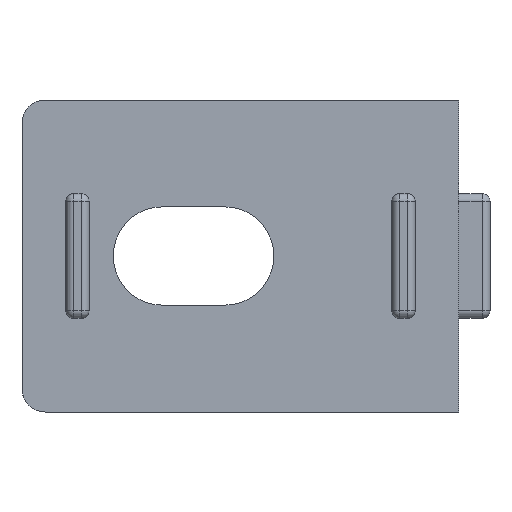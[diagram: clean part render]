
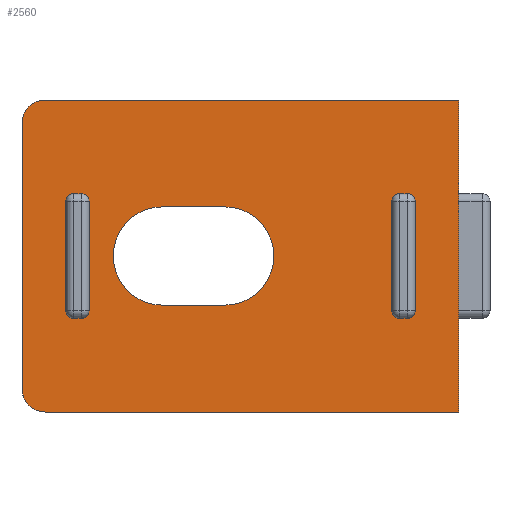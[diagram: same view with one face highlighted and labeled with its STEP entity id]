
A CAD part, left-side view. The second image highlights one B-rep face of the part: STEP entity #2560.
In plain terms, the highlighted planar face has unit normal (-1, 0, 0).
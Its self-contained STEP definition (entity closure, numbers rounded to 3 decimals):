
#1015=CARTESIAN_POINT('',(0.0,3.8,-6.));
#1016=VERTEX_POINT('',#1015);
#1017=CARTESIAN_POINT('',(0.0,4.3,-6.5));
#1018=VERTEX_POINT('',#1017);
#1019=CARTESIAN_POINT('',(0.0,3.8,-6.5));
#1020=DIRECTION('',(1.,0.0,0.0));
#1021=DIRECTION('',(0.0,0.707,0.707));
#1022=AXIS2_PLACEMENT_3D('',#1019,#1020,#1021);
#1023=CIRCLE('',#1022,0.5);
#1024=EDGE_CURVE('',#1016,#1018,#1023,.F.);
#1069=CARTESIAN_POINT('',(0.0,2.8,-6.5));
#1070=VERTEX_POINT('',#1069);
#1071=CARTESIAN_POINT('',(0.0,3.3,-6.0));
#1072=VERTEX_POINT('',#1071);
#1073=CARTESIAN_POINT('',(0.0,3.3,-6.5));
#1074=DIRECTION('',(1.,0.0,0.0));
#1075=DIRECTION('',(0.0,-0.707,0.707));
#1076=AXIS2_PLACEMENT_3D('',#1073,#1074,#1075);
#1077=CIRCLE('',#1076,0.5);
#1078=EDGE_CURVE('',#1070,#1072,#1077,.F.);
#1123=CARTESIAN_POINT('',(0.0,4.3,-13.5));
#1124=VERTEX_POINT('',#1123);
#1125=CARTESIAN_POINT('',(0.0,3.8,-14.0));
#1126=VERTEX_POINT('',#1125);
#1127=CARTESIAN_POINT('',(0.0,3.8,-13.5));
#1128=DIRECTION('',(1.0,0.0,0.0));
#1129=DIRECTION('',(0.0,0.707,-0.707));
#1130=AXIS2_PLACEMENT_3D('',#1127,#1128,#1129);
#1131=CIRCLE('',#1130,0.5);
#1132=EDGE_CURVE('',#1124,#1126,#1131,.F.);
#1177=CARTESIAN_POINT('',(0.0,3.3,-14.0));
#1178=VERTEX_POINT('',#1177);
#1179=CARTESIAN_POINT('',(0.0,2.8,-13.5));
#1180=VERTEX_POINT('',#1179);
#1181=CARTESIAN_POINT('',(0.0,3.3,-13.5));
#1182=DIRECTION('',(1.0,0.0,0.0));
#1183=DIRECTION('',(0.0,-0.707,-0.707));
#1184=AXIS2_PLACEMENT_3D('',#1181,#1182,#1183);
#1185=CIRCLE('',#1184,0.5);
#1186=EDGE_CURVE('',#1178,#1180,#1185,.F.);
#1212=CARTESIAN_POINT('',(0.0,4.3,-13.5));
#1213=DIRECTION('',(0.0,0.0,1.0));
#1214=VECTOR('',#1213,7.);
#1215=LINE('',#1212,#1214);
#1216=EDGE_CURVE('',#1124,#1018,#1215,.T.);
#1229=CARTESIAN_POINT('',(0.0,3.8,-6.));
#1230=DIRECTION('',(0.0,-1.0,0.0));
#1231=VECTOR('',#1230,0.5);
#1232=LINE('',#1229,#1231);
#1233=EDGE_CURVE('',#1016,#1072,#1232,.T.);
#1417=CARTESIAN_POINT('',(0.0,25.2,-13.5));
#1418=VERTEX_POINT('',#1417);
#1419=CARTESIAN_POINT('',(0.0,24.7,-14.0));
#1420=VERTEX_POINT('',#1419);
#1421=CARTESIAN_POINT('',(0.0,24.7,-13.5));
#1422=DIRECTION('',(1.0,0.0,0.0));
#1423=DIRECTION('',(0.0,0.707,-0.707));
#1424=AXIS2_PLACEMENT_3D('',#1421,#1422,#1423);
#1425=CIRCLE('',#1424,0.5);
#1426=EDGE_CURVE('',#1418,#1420,#1425,.F.);
#1471=CARTESIAN_POINT('',(0.0,24.7,-6.0));
#1472=VERTEX_POINT('',#1471);
#1473=CARTESIAN_POINT('',(0.0,25.2,-6.5));
#1474=VERTEX_POINT('',#1473);
#1475=CARTESIAN_POINT('',(0.0,24.7,-6.5));
#1476=DIRECTION('',(1.,0.0,0.0));
#1477=DIRECTION('',(0.0,0.707,0.707));
#1478=AXIS2_PLACEMENT_3D('',#1475,#1476,#1477);
#1479=CIRCLE('',#1478,0.5);
#1480=EDGE_CURVE('',#1472,#1474,#1479,.F.);
#1525=CARTESIAN_POINT('',(0.0,24.2,-14.0));
#1526=VERTEX_POINT('',#1525);
#1527=CARTESIAN_POINT('',(0.0,23.7,-13.5));
#1528=VERTEX_POINT('',#1527);
#1529=CARTESIAN_POINT('',(0.0,24.2,-13.5));
#1530=DIRECTION('',(1.0,0.0,0.0));
#1531=DIRECTION('',(0.0,-0.707,-0.707));
#1532=AXIS2_PLACEMENT_3D('',#1529,#1530,#1531);
#1533=CIRCLE('',#1532,0.5);
#1534=EDGE_CURVE('',#1526,#1528,#1533,.F.);
#1579=CARTESIAN_POINT('',(0.0,23.7,-6.5));
#1580=VERTEX_POINT('',#1579);
#1581=CARTESIAN_POINT('',(0.0,24.2,-6.0));
#1582=VERTEX_POINT('',#1581);
#1583=CARTESIAN_POINT('',(0.0,24.2,-6.5));
#1584=DIRECTION('',(1.0,0.0,0.0));
#1585=DIRECTION('',(0.0,-0.707,0.707));
#1586=AXIS2_PLACEMENT_3D('',#1583,#1584,#1585);
#1587=CIRCLE('',#1586,0.5);
#1588=EDGE_CURVE('',#1580,#1582,#1587,.F.);
#1614=CARTESIAN_POINT('',(0.0,24.2,-14.0));
#1615=DIRECTION('',(0.0,1.0,0.0));
#1616=VECTOR('',#1615,0.5);
#1617=LINE('',#1614,#1616);
#1618=EDGE_CURVE('',#1526,#1420,#1617,.T.);
#1631=CARTESIAN_POINT('',(0.0,25.2,-13.5));
#1632=DIRECTION('',(0.0,0.0,1.0));
#1633=VECTOR('',#1632,7.);
#1634=LINE('',#1631,#1633);
#1635=EDGE_CURVE('',#1418,#1474,#1634,.T.);
#1658=CARTESIAN_POINT('',(0.0,2.8,-6.5));
#1659=DIRECTION('',(0.0,0.0,-1.0));
#1660=VECTOR('',#1659,7.);
#1661=LINE('',#1658,#1660);
#1662=EDGE_CURVE('',#1070,#1180,#1661,.T.);
#1675=CARTESIAN_POINT('',(0.0,3.3,-14.0));
#1676=DIRECTION('',(0.0,1.0,0.0));
#1677=VECTOR('',#1676,0.5);
#1678=LINE('',#1675,#1677);
#1679=EDGE_CURVE('',#1178,#1126,#1678,.T.);
#1692=CARTESIAN_POINT('',(0.0,24.7,-6.0));
#1693=DIRECTION('',(0.0,-1.0,0.0));
#1694=VECTOR('',#1693,0.5);
#1695=LINE('',#1692,#1694);
#1696=EDGE_CURVE('',#1472,#1582,#1695,.T.);
#1709=CARTESIAN_POINT('',(0.0,23.7,-6.5));
#1710=DIRECTION('',(0.0,0.0,-1.0));
#1711=VECTOR('',#1710,7.);
#1712=LINE('',#1709,#1711);
#1713=EDGE_CURVE('',#1580,#1528,#1712,.T.);
#1921=CARTESIAN_POINT('',(0.0,19.,-13.15));
#1922=VERTEX_POINT('',#1921);
#1923=CARTESIAN_POINT('',(0.0,19.,-6.85));
#1924=VERTEX_POINT('',#1923);
#1925=CARTESIAN_POINT('',(0.,19.,-10.0));
#1926=DIRECTION('',(1.0,0.0,0.0));
#1927=DIRECTION('',(0.0,0.0,-1.0));
#1928=AXIS2_PLACEMENT_3D('',#1925,#1926,#1927);
#1929=CIRCLE('',#1928,3.15);
#1930=EDGE_CURVE('',#1922,#1924,#1929,.T.);
#1963=CARTESIAN_POINT('',(0.0,15.,-6.85));
#1964=VERTEX_POINT('',#1963);
#1965=CARTESIAN_POINT('',(0.0,19.,-6.85));
#1966=DIRECTION('',(0.0,-1.0,0.0));
#1967=VECTOR('',#1966,4.0);
#1968=LINE('',#1965,#1967);
#1969=EDGE_CURVE('',#1924,#1964,#1968,.T.);
#1994=CARTESIAN_POINT('',(0.0,15.,-13.15));
#1995=VERTEX_POINT('',#1994);
#1996=CARTESIAN_POINT('',(0.,15.,-10.0));
#1997=DIRECTION('',(1.0,0.0,0.0));
#1998=DIRECTION('',(0.0,0.0,-1.0));
#1999=AXIS2_PLACEMENT_3D('',#1996,#1997,#1998);
#2000=CIRCLE('',#1999,3.15);
#2001=EDGE_CURVE('',#1964,#1995,#2000,.T.);
#2027=CARTESIAN_POINT('',(0.0,15.,-13.15));
#2028=DIRECTION('',(0.0,1.0,0.0));
#2029=VECTOR('',#2028,4.0);
#2030=LINE('',#2027,#2029);
#2031=EDGE_CURVE('',#1995,#1922,#2030,.T.);
#2433=CARTESIAN_POINT('',(0.0,26.5,-20.0));
#2434=VERTEX_POINT('',#2433);
#2435=CARTESIAN_POINT('',(0.0,28.,-18.5));
#2436=VERTEX_POINT('',#2435);
#2437=CARTESIAN_POINT('',(0.0,26.5,-18.5));
#2438=DIRECTION('',(1.0,0.0,0.0));
#2439=DIRECTION('',(0.0,0.707,-0.707));
#2440=AXIS2_PLACEMENT_3D('',#2437,#2438,#2439);
#2441=CIRCLE('',#2440,1.5);
#2442=EDGE_CURVE('',#2434,#2436,#2441,.T.);
#2467=CARTESIAN_POINT('',(0.0,28.,-1.5));
#2468=VERTEX_POINT('',#2467);
#2469=CARTESIAN_POINT('',(0.0,28.,-1.5));
#2470=DIRECTION('',(0.0,0.0,-1.0));
#2471=VECTOR('',#2470,17.0);
#2472=LINE('',#2469,#2471);
#2473=EDGE_CURVE('',#2468,#2436,#2472,.T.);
#2494=CARTESIAN_POINT('',(0.0,28.,0.0));
#2495=DIRECTION('',(-1.0,0.0,0.0));
#2496=DIRECTION('',(0.0,0.0,1.0));
#2497=AXIS2_PLACEMENT_3D('',#2494,#2495,#2496);
#2498=PLANE('',#2497);
#2499=ORIENTED_EDGE('',*,*,#2442,.F.);
#2500=CARTESIAN_POINT('',(0.0,0.0,-20.0));
#2501=VERTEX_POINT('',#2500);
#2502=CARTESIAN_POINT('',(0.0,26.5,-20.0));
#2503=DIRECTION('',(0.0,-1.0,0.0));
#2504=VECTOR('',#2503,26.5);
#2505=LINE('',#2502,#2504);
#2506=EDGE_CURVE('',#2434,#2501,#2505,.T.);
#2507=ORIENTED_EDGE('',*,*,#2506,.T.);
#2508=CARTESIAN_POINT('',(0.0,0.0,0.0));
#2509=VERTEX_POINT('',#2508);
#2510=CARTESIAN_POINT('',(0.0,0.0,0.0));
#2511=DIRECTION('',(0.0,0.0,-1.0));
#2512=VECTOR('',#2511,20.0);
#2513=LINE('',#2510,#2512);
#2514=EDGE_CURVE('',#2509,#2501,#2513,.T.);
#2515=ORIENTED_EDGE('',*,*,#2514,.F.);
#2516=CARTESIAN_POINT('',(0.0,26.5,0.0));
#2517=VERTEX_POINT('',#2516);
#2518=CARTESIAN_POINT('',(0.0,26.5,0.0));
#2519=DIRECTION('',(0.0,-1.0,0.0));
#2520=VECTOR('',#2519,26.5);
#2521=LINE('',#2518,#2520);
#2522=EDGE_CURVE('',#2517,#2509,#2521,.T.);
#2523=ORIENTED_EDGE('',*,*,#2522,.F.);
#2524=CARTESIAN_POINT('',(0.0,26.5,-1.5));
#2525=DIRECTION('',(1.,0.0,0.0));
#2526=DIRECTION('',(0.0,0.707,0.707));
#2527=AXIS2_PLACEMENT_3D('',#2524,#2525,#2526);
#2528=CIRCLE('',#2527,1.5);
#2529=EDGE_CURVE('',#2468,#2517,#2528,.T.);
#2530=ORIENTED_EDGE('',*,*,#2529,.F.);
#2531=ORIENTED_EDGE('',*,*,#2473,.T.);
#2532=EDGE_LOOP('',(#2499,#2507,#2515,#2523,#2530,#2531));
#2533=FACE_OUTER_BOUND('',#2532,.T.);
#2534=ORIENTED_EDGE('',*,*,#1233,.T.);
#2535=ORIENTED_EDGE('',*,*,#1078,.F.);
#2536=ORIENTED_EDGE('',*,*,#1662,.T.);
#2537=ORIENTED_EDGE('',*,*,#1186,.F.);
#2538=ORIENTED_EDGE('',*,*,#1679,.T.);
#2539=ORIENTED_EDGE('',*,*,#1132,.F.);
#2540=ORIENTED_EDGE('',*,*,#1216,.T.);
#2541=ORIENTED_EDGE('',*,*,#1024,.F.);
#2542=EDGE_LOOP('',(#2534,#2535,#2536,#2537,#2538,#2539,#2540,#2541));
#2543=FACE_BOUND('',#2542,.T.);
#2544=ORIENTED_EDGE('',*,*,#1696,.T.);
#2545=ORIENTED_EDGE('',*,*,#1588,.F.);
#2546=ORIENTED_EDGE('',*,*,#1713,.T.);
#2547=ORIENTED_EDGE('',*,*,#1534,.F.);
#2548=ORIENTED_EDGE('',*,*,#1618,.T.);
#2549=ORIENTED_EDGE('',*,*,#1426,.F.);
#2550=ORIENTED_EDGE('',*,*,#1635,.T.);
#2551=ORIENTED_EDGE('',*,*,#1480,.F.);
#2552=EDGE_LOOP('',(#2544,#2545,#2546,#2547,#2548,#2549,#2550,#2551));
#2553=FACE_BOUND('',#2552,.T.);
#2554=ORIENTED_EDGE('',*,*,#2001,.T.);
#2555=ORIENTED_EDGE('',*,*,#2031,.T.);
#2556=ORIENTED_EDGE('',*,*,#1930,.T.);
#2557=ORIENTED_EDGE('',*,*,#1969,.T.);
#2558=EDGE_LOOP('',(#2554,#2555,#2556,#2557));
#2559=FACE_BOUND('',#2558,.T.);
#2560=ADVANCED_FACE('',(#2533,#2543,#2553,#2559),#2498,.T.);
